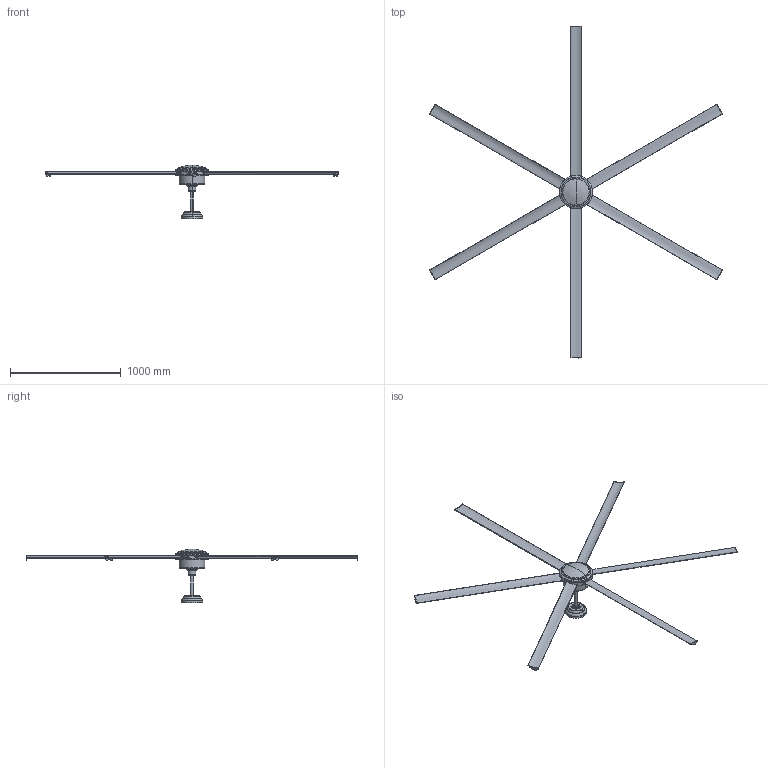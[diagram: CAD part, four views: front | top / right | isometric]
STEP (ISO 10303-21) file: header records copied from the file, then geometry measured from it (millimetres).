
FILE_DESCRIPTION(/* description */ (''),/* implementation_level */ '2;1');
FILE_NAME(/* name */ '34210.step',/* time_stamp */ '2024-09-30T13:01:15+02:00',/* author */ ('RenataManzini'),/* organization */ (''),/* preprocessor_version */ 'ST-DEVELOPER v20',/* originating_system */ 'AutoCAD Mechanical',/* authorisation */ '');
FILE_SCHEMA (('AUTOMOTIVE_DESIGN { 1 0 10303 214 3 1 1 }'));
Length unit declared in the file: millimetre
Products named in the file (2): Product; rotterdam_3000 - fan-544559-_3D_
Assembly tree (1 placements, depth 2):
  Product
    rotterdam_3000 - fan-544559-_3D_
Bounding box: 2650.15 x 3000 x 483.32 mm (x, y, z)
Volume: 13637276.8 mm3; surface area: 2758292.5 mm2
Topology: 18 solids, 18 shells, 338 faces, 817 edges, 509 vertices
Faces by surface type: plane 114, cylinder 110, torus 68, bspline 38, cone 8
Entity records: 17730 total; most frequent: CARTESIAN_POINT 10347, ORIENTED_EDGE 1630, DIRECTION 1309, EDGE_CURVE 815, VERTEX_POINT 509, AXIS2_PLACEMENT_3D 506, EDGE_LOOP 366, FACE_OUTER_BOUND 338
